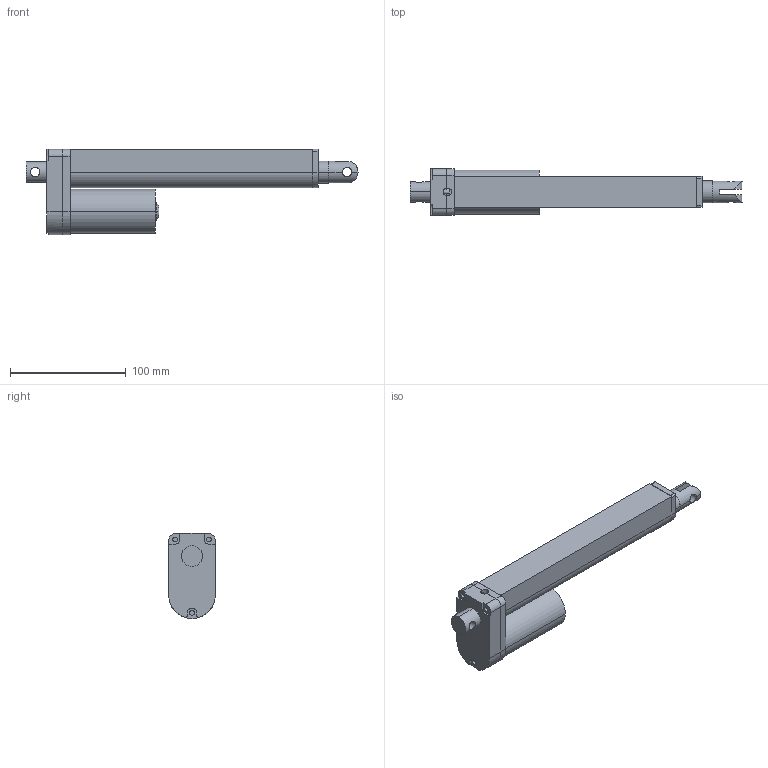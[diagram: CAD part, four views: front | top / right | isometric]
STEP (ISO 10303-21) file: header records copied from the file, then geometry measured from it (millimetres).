
FILE_DESCRIPTION((''),'2;1');
FILE_NAME('LAS-S100_ASM','2007-07-11T',('amyliao'),(''),'PRO/ENGINEER BY PARAMETRIC TECHNOLOGY CORPORATION, 2003210','PRO/ENGINEER BY PARAMETRIC TECHNOLOGY CORPORATION, 2003210','');
FILE_SCHEMA(('CONFIG_CONTROL_DESIGN'));
Length unit declared in the file: millimetre
Products named in the file (8): GEAR02; GEAR01; OUT-TUB; 1; LAS-IN-TUB_100; LAS-IN-PLUG; LAS-MOTOR; LAS-S100_ASM
Assembly tree (7 placements, depth 2):
  LAS-S100_ASM
    GEAR02
    GEAR01
    OUT-TUB
    1
    LAS-IN-TUB_100
    LAS-IN-PLUG
    LAS-MOTOR
Bounding box: 286.4 x 40 x 73.6 mm (x, y, z)
Volume: 176507.2 mm3; surface area: 93308.3 mm2
Topology: 7 solids, 7 shells, 150 faces, 393 edges, 260 vertices
Faces by surface type: cylinder 77, plane 71, cone 2
Entity records: 5111 total; most frequent: CARTESIAN_POINT 1030, DIRECTION 861, ORIENTED_EDGE 786, EDGE_CURVE 393, AXIS2_PLACEMENT_3D 315, VERTEX_POINT 260, VECTOR 231, LINE 231
